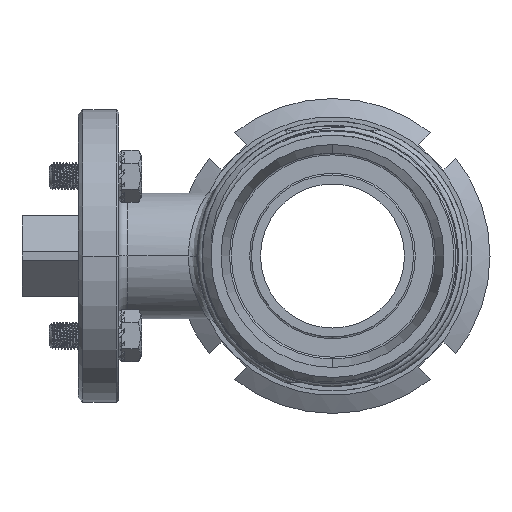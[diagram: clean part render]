
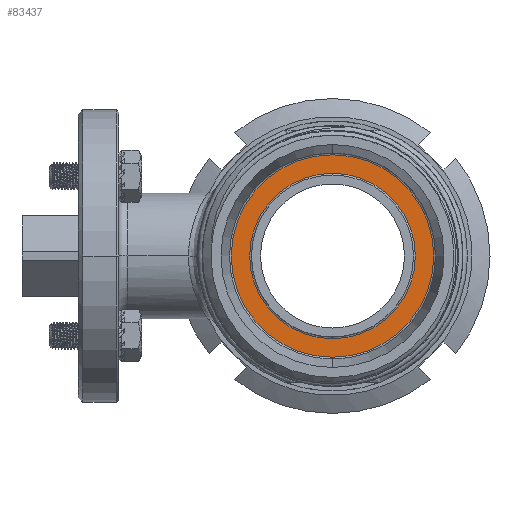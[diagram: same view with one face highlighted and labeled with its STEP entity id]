
A CAD part, left-side view. The second image highlights one B-rep face of the part: STEP entity #83437.
In plain terms, the highlighted planar face has unit normal (-1, 0, 0).
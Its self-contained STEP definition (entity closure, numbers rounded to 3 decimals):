
#40058=CARTESIAN_POINT('',(-45.5,0.,0.));
#40059=DIRECTION('',(1.,0.,0.));
#40060=DIRECTION('',(0.,0.,1.));
#40061=AXIS2_PLACEMENT_3D('',#40058,#40059,#40060);
#40082=CARTESIAN_POINT('',(-45.5,0.,0.));
#40083=DIRECTION('',(-1.,0.,0.));
#40084=DIRECTION('',(0.,0.,1.));
#40085=AXIS2_PLACEMENT_3D('',#40082,#40083,#40084);
#40090=CARTESIAN_POINT('',(-45.5,0.,0.));
#40091=DIRECTION('',(-1.,0.,0.));
#40092=DIRECTION('',(0.,0.,1.));
#40093=AXIS2_PLACEMENT_3D('',#40090,#40091,#40092);
#40122=CARTESIAN_POINT('',(-45.5,0.,0.));
#40123=DIRECTION('',(1.,0.,0.));
#40124=DIRECTION('',(0.,0.,1.));
#40125=AXIS2_PLACEMENT_3D('',#40122,#40123,#40124);
#49179=CARTESIAN_POINT('',(-45.5,0.,22.5));
#49180=CARTESIAN_POINT('',(-45.5,0.,-22.5));
#49181=VERTEX_POINT('',#49179);
#49182=VERTEX_POINT('',#49180);
#49191=CARTESIAN_POINT('',(-45.5,0.,18.4));
#49192=CARTESIAN_POINT('',(-45.5,0.,-18.4));
#49193=VERTEX_POINT('',#49191);
#49194=VERTEX_POINT('',#49192);
#83422=CARTESIAN_POINT('',(-45.5,0.,0.));
#83423=DIRECTION('',(1.,0.,0.));
#83424=DIRECTION('',(0.,0.,1.));
#83425=AXIS2_PLACEMENT_3D('',#83422,#83423,#83424);
#83426=PLANE('',#83425);
#83428=ORIENTED_EDGE('',*,*,#83427,.F.);
#83430=ORIENTED_EDGE('',*,*,#83429,.T.);
#83431=EDGE_LOOP('',(#83428,#83430));
#83432=FACE_OUTER_BOUND('',#83431,.F.);
#83433=ORIENTED_EDGE('',*,*,#83402,.F.);
#83434=ORIENTED_EDGE('',*,*,#83416,.T.);
#83435=EDGE_LOOP('',(#83433,#83434));
#83436=FACE_BOUND('',#83435,.F.);
#83437=ADVANCED_FACE('',(#83432,#83436),#83426,.F.);
#40062=CIRCLE('',#40061,18.4);
#40086=CIRCLE('',#40085,18.4);
#40094=CIRCLE('',#40093,22.5);
#40126=CIRCLE('',#40125,22.5);
#83402=EDGE_CURVE('',#49193,#49194,#40062,.T.);
#83416=EDGE_CURVE('',#49193,#49194,#40086,.T.);
#83427=EDGE_CURVE('',#49181,#49182,#40094,.T.);
#83429=EDGE_CURVE('',#49181,#49182,#40126,.T.);
